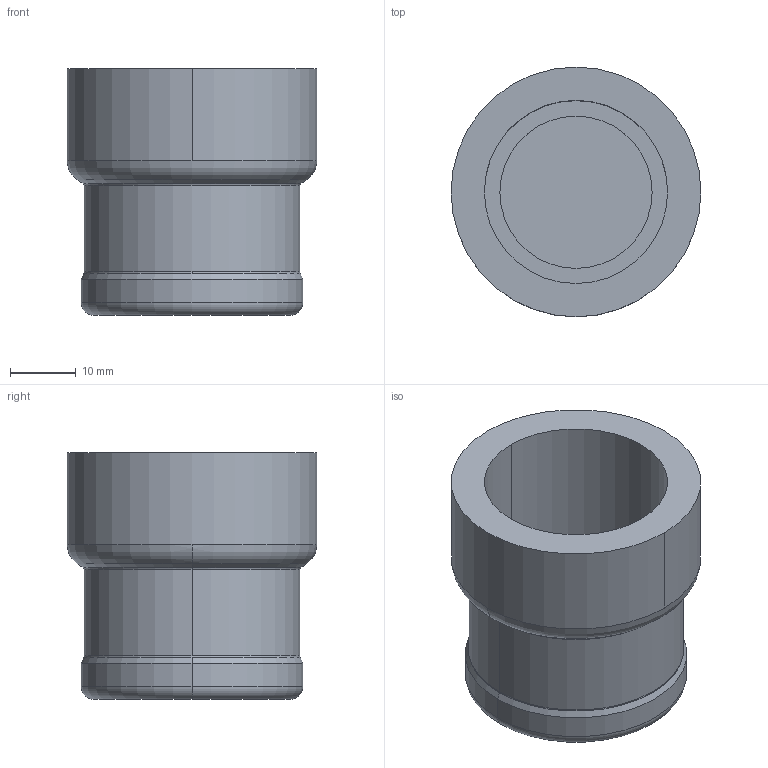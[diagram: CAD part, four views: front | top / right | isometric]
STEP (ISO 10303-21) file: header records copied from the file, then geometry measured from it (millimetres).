
FILE_DESCRIPTION(('Creo Elements/Direct Modeling STEP Export'),'2;1');
FILE_NAME('C9429_3-4.stp','2020-07-17T11:56:09',(''),(''),'PTC Creo Elements/Direct Modeling STEP processor for AP214 (Solid Model)','PTC Creo Elements/Direct Modeling 19.0C 15-Aug-2015 (C) Parametric Technology GmbH','');
FILE_SCHEMA(('AUTOMOTIVE_DESIGN { 1 0 10303 214 1 1 1 1 }'));
Length unit declared in the file: millimetre
Products named in the file (2): C9429_3-4
Assembly tree (1 placements, depth 2):
  C9429_3-4
    C9429_3-4
Bounding box: 37.9 x 37.9 x 37.46 mm (x, y, z)
Volume: 15836.4 mm3; surface area: 9182.3 mm2
Topology: 1 solids, 1 shells, 26 faces, 57 edges, 35 vertices
Faces by surface type: cylinder 10, torus 8, plane 4, cone 4
Entity records: 672 total; most frequent: DIRECTION 114, ORIENTED_EDGE 114, CARTESIAN_POINT 99, EDGE_CURVE 57, AXIS2_PLACEMENT_3D 50, VERTEX_POINT 35, EDGE_LOOP 28, FACE_OUTER_BOUND 26
